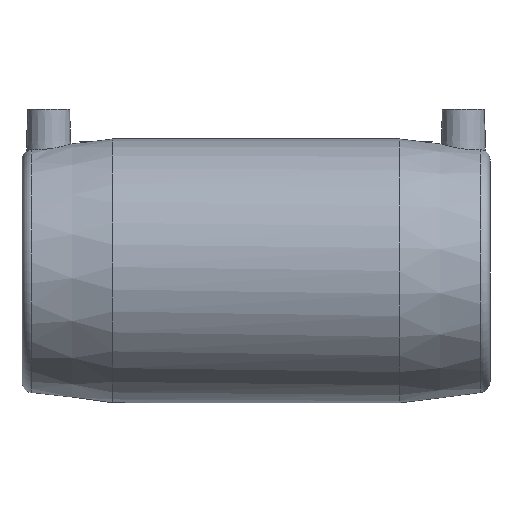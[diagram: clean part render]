
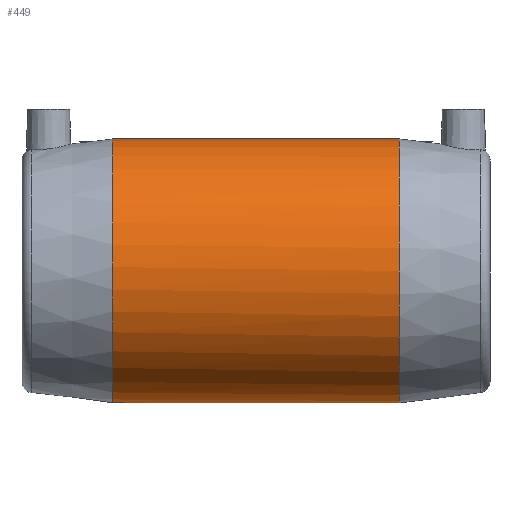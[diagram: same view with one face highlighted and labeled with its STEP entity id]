
A CAD part, front view. The second image highlights one B-rep face of the part: STEP entity #449.
In plain terms, the highlighted cylindrical face has radius 59.5 mm (diameter 119 mm), a full revolution.
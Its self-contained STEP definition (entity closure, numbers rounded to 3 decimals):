
#71=B_SPLINE_CURVE_WITH_KNOTS('',3,(#1080,#1081,#1082,#1083,#1084,#1085,
#1086,#1087,#1088,#1089,#1090,#1091,#1092,#1093,#1094,#1095,#1096,#1097,
#1098,#1099,#1100,#1101,#1102,#1103,#1104,#1105,#1106,#1107,#1108,#1109,
#1110,#1111,#1112,#1113,#1114,#1115,#1116,#1117,#1118,#1119,#1120,#1121,
#1122,#1123,#1124,#1125,#1126,#1127,#1128,#1129,#1130,#1131,#1132,#1133,
#1134,#1135,#1136,#1137,#1138,#1139,#1140,#1141),.UNSPECIFIED.,.T.,.F.,
(1,1,1,1,1,1,1,1,1,1,1,1,1,1,1,1,1,1,1,1,1,1,1,1,1,1,1,1,1,1,1,1,1,1,1,
1,1,1,1,1,1,1,1,1,1,1,1,1,1,1,1,1,1,1,1,1,1,1,1,1,1,1,1,1,1,1),(-0.015,
-0.01,-0.005,0.,0.005,
0.01,0.015,0.02,0.025,
0.03,0.041,0.046,0.051,
0.056,0.061,0.066,0.071,
0.076,0.081,0.086,0.091,
0.102,0.107,0.112,0.117,
0.122,0.127,0.132,0.137,
0.142,0.147,0.152,0.158,
0.163,0.168,0.173,0.178,
0.183,0.188,0.193,0.203,
0.213,0.218,0.224,0.229,
0.234,0.239,0.244,0.249,
0.254,0.264,0.269,0.274,
0.279,0.285,0.29,0.295,0.3,
0.305,0.31,0.315,0.32,0.325,
0.33,0.335,0.34),.UNSPECIFIED.);
#127=ORIENTED_EDGE('',*,*,#193,.T.);
#128=ORIENTED_EDGE('',*,*,#192,.F.);
#129=ORIENTED_EDGE('',*,*,#197,.T.);
#192=EDGE_CURVE('',#237,#237,#270,.T.);
#193=EDGE_CURVE('',#238,#238,#71,.T.);
#197=EDGE_CURVE('',#242,#242,#273,.T.);
#237=VERTEX_POINT('',#902);
#238=VERTEX_POINT('',#1142);
#242=VERTEX_POINT('',#1159);
#270=CIRCLE('',#513,59.5);
#273=CIRCLE('',#519,59.5);
#325=EDGE_LOOP('',(#127));
#326=EDGE_LOOP('',(#128));
#327=EDGE_LOOP('',(#129));
#393=FACE_BOUND('',#325,.T.);
#394=FACE_BOUND('',#326,.T.);
#395=FACE_BOUND('',#327,.T.);
#423=CYLINDRICAL_SURFACE('',#518,59.5);
#449=ADVANCED_FACE('',(#393,#394,#395),#423,.T.);
#513=AXIS2_PLACEMENT_3D('',#901,#617,#618);
#518=AXIS2_PLACEMENT_3D('',#1157,#627,#628);
#519=AXIS2_PLACEMENT_3D('',#1158,#629,#630);
#617=DIRECTION('',(-1.,0.,0.));
#618=DIRECTION('',(0.,0.,1.));
#627=DIRECTION('',(-1.,0.,0.));
#628=DIRECTION('',(0.,0.,1.));
#629=DIRECTION('',(-1.,0.,0.));
#630=DIRECTION('',(0.,0.,1.));
#901=CARTESIAN_POINT('',(-64.5,0.,0.));
#902=CARTESIAN_POINT('',(-64.5,0.,59.5));
#1080=CARTESIAN_POINT('',(49.311,59.352,-5.124));
#1081=CARTESIAN_POINT('',(49.594,59.573,0.01));
#1082=CARTESIAN_POINT('',(49.314,59.355,5.083));
#1083=CARTESIAN_POINT('',(48.48,58.707,10.096));
#1084=CARTESIAN_POINT('',(47.15,57.683,14.852));
#1085=CARTESIAN_POINT('',(45.349,56.314,19.398));
#1086=CARTESIAN_POINT('',(43.123,54.65,23.669));
#1087=CARTESIAN_POINT('',(39.701,52.152,28.891));
#1088=CARTESIAN_POINT('',(35.589,49.274,33.518));
#1089=CARTESIAN_POINT('',(31.002,46.305,37.421));
#1090=CARTESIAN_POINT('',(27.289,44.055,40.038));
#1091=CARTESIAN_POINT('',(23.31,41.853,42.327));
#1092=CARTESIAN_POINT('',(19.126,39.808,44.247));
#1093=CARTESIAN_POINT('',(14.68,37.984,45.816));
#1094=CARTESIAN_POINT('',(9.924,36.5,46.998));
#1095=CARTESIAN_POINT('',(5.029,35.534,47.726));
#1096=CARTESIAN_POINT('',(-0.098,35.195,47.974));
#1097=CARTESIAN_POINT('',(-5.106,35.546,47.718));
#1098=CARTESIAN_POINT('',(-11.742,36.872,46.716));
#1099=CARTESIAN_POINT('',(-17.8,39.155,44.865));
#1100=CARTESIAN_POINT('',(-23.441,41.921,42.26));
#1101=CARTESIAN_POINT('',(-27.363,44.099,39.989));
#1102=CARTESIAN_POINT('',(-31.042,46.33,37.39));
#1103=CARTESIAN_POINT('',(-34.495,48.566,34.445));
#1104=CARTESIAN_POINT('',(-37.698,50.75,31.146));
#1105=CARTESIAN_POINT('',(-40.564,52.782,27.572));
#1106=CARTESIAN_POINT('',(-43.112,54.642,23.685));
#1107=CARTESIAN_POINT('',(-45.327,56.297,19.447));
#1108=CARTESIAN_POINT('',(-47.144,57.679,14.87));
#1109=CARTESIAN_POINT('',(-48.471,58.701,10.13));
#1110=CARTESIAN_POINT('',(-49.31,59.352,5.117));
#1111=CARTESIAN_POINT('',(-49.592,59.571,0.06));
#1112=CARTESIAN_POINT('',(-49.323,59.362,-5.));
#1113=CARTESIAN_POINT('',(-48.498,58.721,-10.013));
#1114=CARTESIAN_POINT('',(-47.184,57.709,-14.747));
#1115=CARTESIAN_POINT('',(-45.396,56.349,-19.297));
#1116=CARTESIAN_POINT('',(-43.173,54.688,-23.583));
#1117=CARTESIAN_POINT('',(-39.764,52.196,-28.811));
#1118=CARTESIAN_POINT('',(-34.627,48.601,-34.61));
#1119=CARTESIAN_POINT('',(-28.692,44.836,-39.221));
#1120=CARTESIAN_POINT('',(-23.378,41.888,-42.293));
#1121=CARTESIAN_POINT('',(-19.187,39.836,-44.223));
#1122=CARTESIAN_POINT('',(-14.747,38.008,-45.795));
#1123=CARTESIAN_POINT('',(-9.986,36.515,-46.986));
#1124=CARTESIAN_POINT('',(-5.09,35.542,-47.72));
#1125=CARTESIAN_POINT('',(0.041,35.194,-47.975));
#1126=CARTESIAN_POINT('',(5.06,35.539,-47.723));
#1127=CARTESIAN_POINT('',(11.699,36.859,-46.726));
#1128=CARTESIAN_POINT('',(17.766,39.14,-44.878));
#1129=CARTESIAN_POINT('',(23.417,41.909,-42.272));
#1130=CARTESIAN_POINT('',(27.347,44.09,-39.999));
#1131=CARTESIAN_POINT('',(31.031,46.322,-37.399));
#1132=CARTESIAN_POINT('',(34.48,48.556,-34.459));
#1133=CARTESIAN_POINT('',(37.693,50.747,-31.152));
#1134=CARTESIAN_POINT('',(40.564,52.782,-27.572));
#1135=CARTESIAN_POINT('',(43.114,54.643,-23.682));
#1136=CARTESIAN_POINT('',(45.323,56.294,-19.457));
#1137=CARTESIAN_POINT('',(47.147,57.681,-14.865));
#1138=CARTESIAN_POINT('',(48.474,58.703,-10.114));
#1139=CARTESIAN_POINT('',(49.311,59.352,-5.124));
#1140=CARTESIAN_POINT('',(49.594,59.573,0.01));
#1141=CARTESIAN_POINT('',(49.314,59.355,5.083));
#1142=CARTESIAN_POINT('',(49.5,59.5,0.));
#1157=CARTESIAN_POINT('',(-60.,0.,0.));
#1158=CARTESIAN_POINT('',(64.5,0.,0.));
#1159=CARTESIAN_POINT('',(64.5,0.,59.5));
